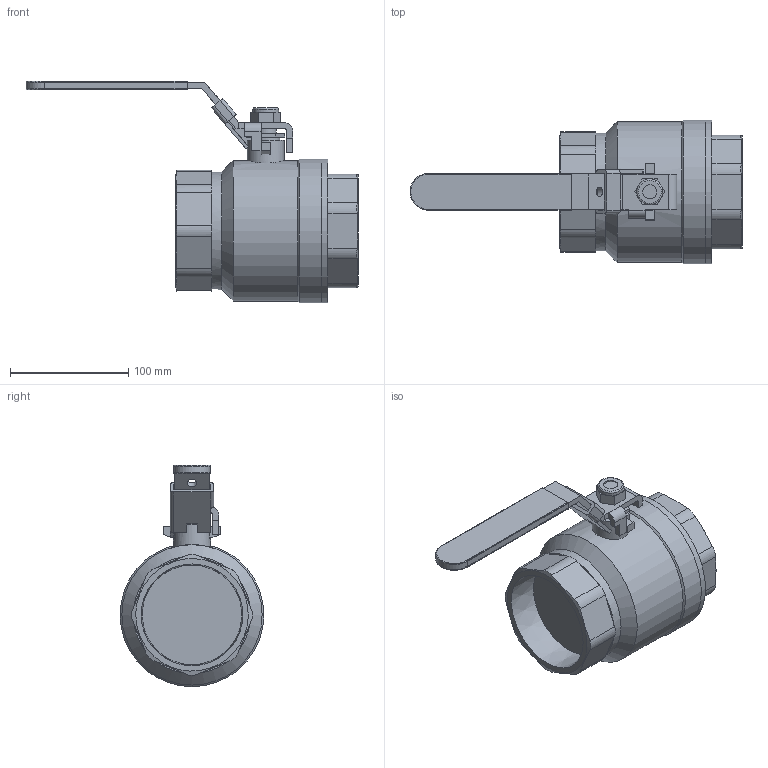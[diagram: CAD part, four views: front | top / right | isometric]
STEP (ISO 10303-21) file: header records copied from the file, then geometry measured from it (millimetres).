
FILE_DESCRIPTION(('Open CASCADE Model'),'2;1');
FILE_NAME('Open CASCADE Shape Model','2020-01-02T16:12:11',('Author'),( 'Open CASCADE'),'Open CASCADE STEP processor 7.3','Open CASCADE 7.3' ,'Unknown');
FILE_SCHEMA(('AUTOMOTIVE_DESIGN { 1 0 10303 214 1 1 1 1 }'));
Length unit declared in the file: millimetre
Products named in the file (9): Open CASCADE STEP translator 7.3 1; Open CASCADE STEP translator 7.3 1.1; Open CASCADE STEP translator 7.3 1.2; Open CASCADE STEP translator 7.3 1.3; Open CASCADE STEP translator 7.3 1.4; Open CASCADE STEP translator 7.3 1.5; Open CASCADE STEP translator 7.3 1.6; Open CASCADE STEP translator 7.3 1.7; Open CASCADE STEP translator 7.3 1.8
Assembly tree (8 placements, depth 2):
  Open CASCADE STEP translator 7.3 1
    Open CASCADE STEP translator 7.3 1.1
    Open CASCADE STEP translator 7.3 1.2
    Open CASCADE STEP translator 7.3 1.3
    Open CASCADE STEP translator 7.3 1.4
    Open CASCADE STEP translator 7.3 1.5
    Open CASCADE STEP translator 7.3 1.6
    Open CASCADE STEP translator 7.3 1.7
    Open CASCADE STEP translator 7.3 1.8
Bounding box: 280.92 x 121.54 x 187.28 mm (x, y, z)
Volume: 1289871.1 mm3; surface area: 153535 mm2
Topology: 8 solids, 8 shells, 191 faces, 474 edges, 304 vertices
Faces by surface type: plane 136, cylinder 46, cone 6, torus 3
Full cylindrical faces by diameter (mm): 8.001 x1, 12.065 x1, 17.78 x1, 18.288 x1, 21.844 x1, 24.003 x1, 31.369 x1, 99.314 x1, 118.745 x1, 121.539 x2
Entity records: 13614 total; most frequent: CARTESIAN_POINT 4104, DIRECTION 1741, LINE 1070, VECTOR 1070, ORIENTED_EDGE 948, PCURVE 948, DEFINITIONAL_REPRESENTATION 948, EDGE_CURVE 474
